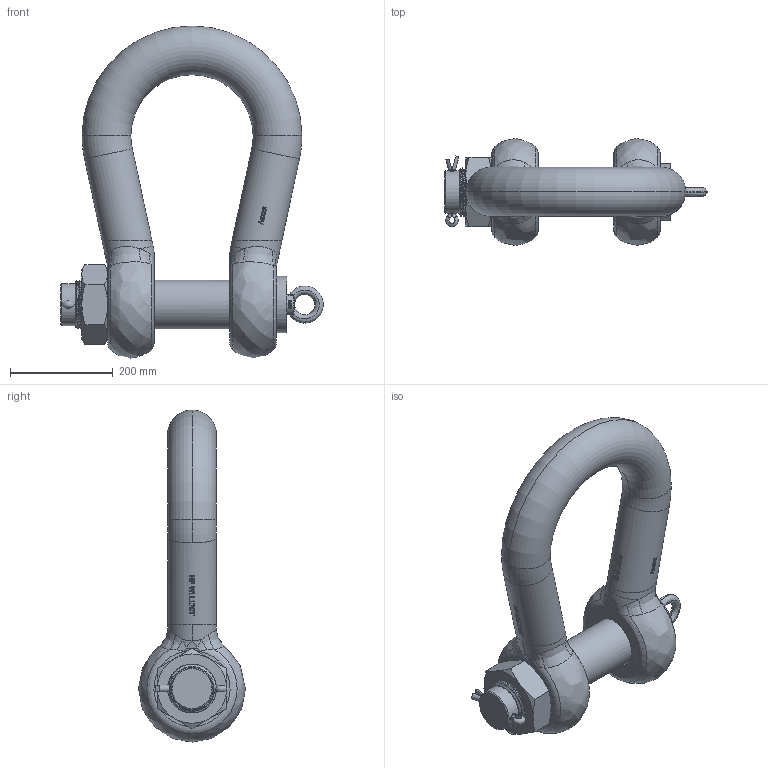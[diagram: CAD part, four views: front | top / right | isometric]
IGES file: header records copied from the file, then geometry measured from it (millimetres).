
Global section: file name: No Iges File Name specified; native system: Autodesk Inventor 2009; preprocessor: AutoDesk Inventor Iges Exporter R2009; author: Jack; date: 20091209.212643; units: millimetre
Bounding box: 511 x 208 x 646.5 mm (x, y, z)
Volume: 14607228.7 mm3; surface area: 774872 mm2
Topology: 5 solids, 5 shells, 825 faces, 2229 edges, 1457 vertices
Faces by surface type: plane 418, bspline 225, cylinder 103, revolution 39, torus 20, cone 20
Full cylindrical faces by diameter (mm): 95 x13
